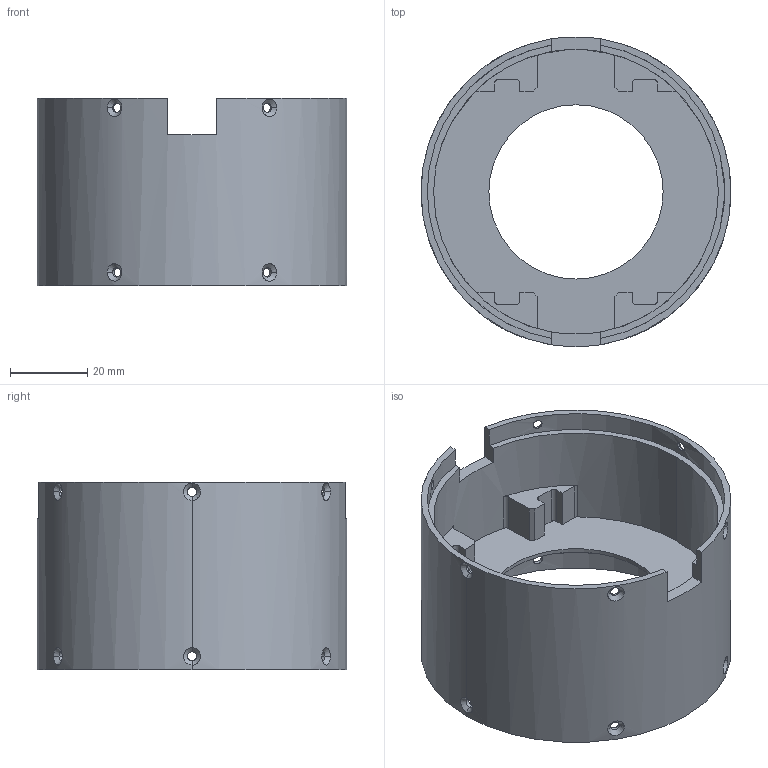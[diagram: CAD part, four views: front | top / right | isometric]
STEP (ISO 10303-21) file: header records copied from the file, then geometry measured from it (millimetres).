
FILE_DESCRIPTION (( 'STEP AP214' ), '1' );
FILE_NAME ('棠そ敖耜裔-俋.STEP', '2026-04-22T03:42:59', ( '' ), ( '' ), 'SwSTEP 2.0', 'SolidWorks 2024', '' );
FILE_SCHEMA (( 'AUTOMOTIVE_DESIGN' ));
Length unit declared in the file: millimetre
Products named in the file (1): 磁屏蔽侧盖-外
Bounding box: 80 x 80 x 48.5 mm (x, y, z)
Volume: 42034.9 mm3; surface area: 30324.9 mm2
Topology: 1 solids, 1 shells, 130 faces, 361 edges, 228 vertices
Faces by surface type: cylinder 60, plane 46, cone 24
Entity records: 5216 total; most frequent: CARTESIAN_POINT 1824, ORIENTED_EDGE 722, DIRECTION 687, EDGE_CURVE 361, AXIS2_PLACEMENT_3D 243, VERTEX_POINT 228, VECTOR 201, LINE 201
